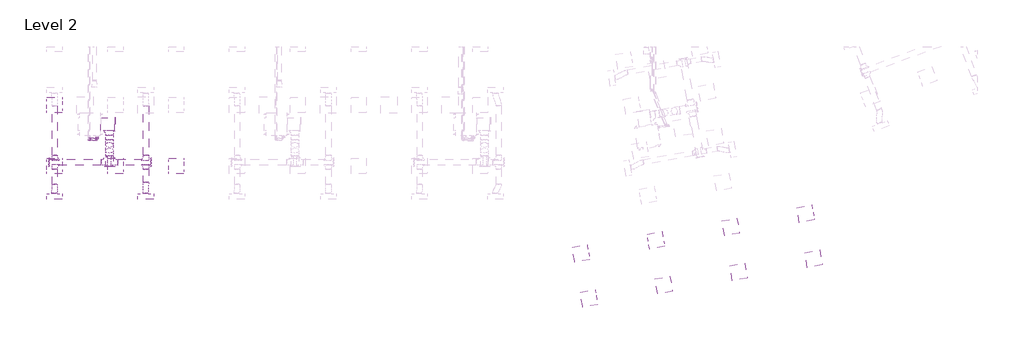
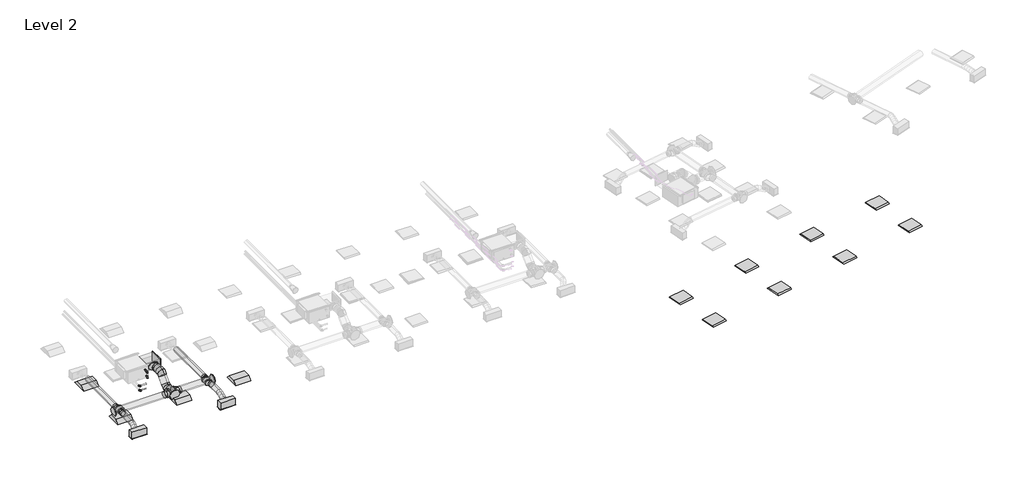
# One storey, part 1 of 26: 13 duct fittings, 12 duct segments, 12 light fixtures, 6 pipe fittings, 4 pipe segments, 2 air terminals.
"""IFC4 building model written with IfcOpenShell, lengths in millimetres."""

from ifc_helpers import new_model, si_unit, point, frame, frame_2d, origin, place, context, project, spatial, polyline, circle_curve, ellipse_curve, trimmed, segment, composite_curve, outline, extrude, transform, mapped, element, save
from ifc_brep_helpers import plane_surface, cylinder_surface, advanced_brep
from components import supply_diffuser_with_plenum_linear_slot_hosted_8c379eed, dw144_rectangular_blank_end_standard_8fde7d16, dw144_round_blank_end_standard_f82b0856, dw144_round_blank_end_standard_9aa061e7, dw144_round_segmented_bend_slip_joint_standard_8b80c5ae, dw144_round_shoe_branch_slip_joint1_standard_2_15a2edd8, dw144_round_shoe_branch_slip_joint1_standard_2_559552f4, dw144_round_shoe_branch_slip_joint1_standard_2_7ba9e4ed, dw144_round_shoe_branch_slip_joint1_standard_2_67b64720, light_fixture_1c7c1157, light_fixture_b730b5ca, plain_recessed_lighting_fixture_2x2_277_2107ce2d, elbow_threaded_gmi_standard_b4aa7741, socket_reducing_threaded_gmi_standard_0a4076b8

model = new_model("IFC4")

# Units and contexts
model_context = context("Model", 3, world=origin())
ifc_project = project(units=[si_unit("LENGTHUNIT", "METRE", prefix="MILLI")], contexts=[model_context])

# Site, building, storey
site = spatial("IfcSite", under=ifc_project)
building = spatial("IfcBuilding", under=site)
storey = spatial("IfcBuildingStorey", under=building, Name="Level 2", Elevation=7800.0)

# Air terminals
placement = place(None, origin())
supply_diffuser_with_plenum_linear_slot_hosted_shape = supply_diffuser_with_plenum_linear_slot_hosted_8c379eed(model_context)
element("IfcAirTerminal", 1, ObjectType="Supply Diffuser with Plenum - Linear Slot - Hosted : 24\" x 8\"-200 In Inlet  4-Slot", at=placement, inside=storey, context=model_context, shape_type="MappedRepresentation", body=[
    mapped(supply_diffuser_with_plenum_linear_slot_hosted_shape, transform((9162.2000027, 963.2000004, 10600.0), x_axis=(1.0, 0.0, 0.0), y_axis=(0.0, -1.0, 0.0), z_axis=(0.0, 0.0, -1.0))),
])
element("IfcAirTerminal", 2, ObjectType="Supply Diffuser with Plenum - Linear Slot - Hosted : 24\" x 8\"-200 In Inlet  4-Slot", at=placement, inside=storey, context=model_context, shape_type="MappedRepresentation", body=[
    mapped(supply_diffuser_with_plenum_linear_slot_hosted_shape, transform((12762.2000027, 963.2000004, 10600.0), x_axis=(1.0, 0.0, 0.0), y_axis=(0.0, -1.0, 0.0), z_axis=(0.0, 0.0, -1.0))),
])

# Duct fittings
dw144_rectangular_blank_end_standard_shape = dw144_rectangular_blank_end_standard_8fde7d16(model_context)
element("IfcDuctFitting", 3, ObjectType="DW144 Rectangular Blank End : Standard", at=placement, inside=storey, context=model_context, shape_type="MappedRepresentation", body=[
    mapped(dw144_rectangular_blank_end_standard_shape, transform((11546.2561025, 3806.0000004, 11276.3911538), x_axis=(1.0, 0.0, 0.0), y_axis=(0.0, 1.0, 0.0), z_axis=(0.0, 0.0, 1.0))),
])
dw144_round_blank_end_standard_shape = dw144_round_blank_end_standard_f82b0856(model_context)
element("IfcDuctFitting", 4, ObjectType="DW144 Round Blank End : Standard", at=placement, inside=storey, context=model_context, shape_type="MappedRepresentation", body=[
    mapped(dw144_round_blank_end_standard_shape, transform((11331.4561025, 2142.9916128, 10872.2088531), x_axis=(0.0, -1.0, 0.0), y_axis=(1.0, 0.0, 0.0), z_axis=(0.0, 0.0, 1.0))),
])
dw144_round_blank_end_standard_2_shape = dw144_round_blank_end_standard_9aa061e7(model_context)
element("IfcDuctFitting", 5, ObjectType="DW144 Round Blank End : Standard", at=placement, inside=storey, context=model_context, shape_type="MappedRepresentation", body=[
    mapped(dw144_round_blank_end_standard_2_shape, transform((12961.4561025, 2306.5018192, 10872.2088531), x_axis=(1.0, 0.0, 0.0), y_axis=(0.0, 1.0, 0.0), z_axis=(0.0, 0.0, 1.0))),
])
element("IfcDuctFitting", 6, ObjectType="DW144 Round Blank End : Standard", at=placement, inside=storey, context=model_context, shape_type="MappedRepresentation", body=[
    mapped(dw144_round_blank_end_standard_2_shape, transform((8961.4561025, 2306.5018192, 10872.2088531), x_axis=(-1.0, 0.0, 0.0), y_axis=(0.0, -1.0, 0.0), z_axis=(0.0, 0.0, 1.0))),
])
dw144_round_segmented_bend_slip_joint_standard_shape = dw144_round_segmented_bend_slip_joint_standard_8b80c5ae(model_context)
element("IfcDuctFitting", 7, ObjectType="DW144 Round Segmented Bend - Slip Joint : Standard", at=placement, inside=storey, context=model_context, shape_type="MappedRepresentation", body=[
    mapped(dw144_round_segmented_bend_slip_joint_standard_shape, transform((11331.4561025, 2678.6338536, 10872.2088531), x_axis=(0.0, -0.7071067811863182, -0.7071067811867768), y_axis=(0.0, 0.7071067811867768, -0.7071067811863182), z_axis=(1.0, 0.0, 0.0))),
])
element("IfcDuctFitting", 8, ObjectType="DW144 Round Segmented Bend - Slip Joint : Standard", at=placement, inside=storey, context=model_context, shape_type="MappedRepresentation", body=[
    mapped(dw144_round_segmented_bend_slip_joint_standard_shape, transform((11331.4561025, 3076.0000004, 11269.575), x_axis=(0.0, -1.0, 0.0), y_axis=(0.0, 0.0, 1.0), z_axis=(-1.0, 0.0, 0.0))),
])
dw144_round_shoe_branch_slip_joint1_standard_2_shape = dw144_round_shoe_branch_slip_joint1_standard_2_15a2edd8(model_context)
element("IfcDuctFitting", 9, ObjectType="DW144 Round Shoe Branch - Slip Joint1 : Standard 2", at=placement, inside=storey, context=model_context, shape_type="MappedRepresentation", body=[
    mapped(dw144_round_shoe_branch_slip_joint1_standard_2_shape, transform((9173.9000022, 2181.5018192, 10872.2088531), x_axis=(0.0, -1.0, 0.0), y_axis=(-1.0, 0.0, 0.0), z_axis=(0.0, 0.0, -1.0))),
])
element("IfcDuctFitting", 10, ObjectType="DW144 Round Shoe Branch - Slip Joint1 : Standard 2", at=placement, inside=storey, context=model_context, shape_type="MappedRepresentation", body=[
    mapped(dw144_round_shoe_branch_slip_joint1_standard_2_shape, transform((9173.9000022, 2431.5018192, 10872.2088531), x_axis=(0.0, 1.0, 0.0), y_axis=(-1.0, 0.0, 0.0), z_axis=(0.0, 0.0, 1.0))),
])
dw144_round_shoe_branch_slip_joint1_standard_2_2_shape = dw144_round_shoe_branch_slip_joint1_standard_2_559552f4(model_context)
element("IfcDuctFitting", 11, ObjectType="DW144 Round Shoe Branch - Slip Joint1 : Standard 2", at=placement, inside=storey, context=model_context, shape_type="MappedRepresentation", body=[
    mapped(dw144_round_shoe_branch_slip_joint1_standard_2_2_shape, transform((12773.9000022, 2181.5018192, 10872.2088531), x_axis=(0.0, -1.0, 0.0), y_axis=(-1.0, 0.0, 0.0), z_axis=(0.0, 0.0, -1.0))),
])
element("IfcDuctFitting", 12, ObjectType="DW144 Round Shoe Branch - Slip Joint1 : Standard 2", at=placement, inside=storey, context=model_context, shape_type="MappedRepresentation", body=[
    mapped(dw144_round_shoe_branch_slip_joint1_standard_2_2_shape, transform((12773.9000022, 2431.5018192, 10872.2088531), x_axis=(0.0, 1.0, 0.0), y_axis=(-1.0, 0.0, 0.0), z_axis=(0.0, 0.0, 1.0))),
])
dw144_round_shoe_branch_slip_joint1_standard_2_3_shape = dw144_round_shoe_branch_slip_joint1_standard_2_7ba9e4ed(model_context)
element("IfcDuctFitting", 13, ObjectType="DW144 Round Shoe Branch - Slip Joint1 : Standard 2", at=placement, inside=storey, context=model_context, shape_type="MappedRepresentation", body=[
    mapped(dw144_round_shoe_branch_slip_joint1_standard_2_3_shape, transform((11331.4561025, 3556.0000004, 11269.575), x_axis=(0.0, -1.0, 0.0), y_axis=(-1.0, 0.0, 0.0), z_axis=(0.0, 0.0, -1.0))),
])
dw144_round_shoe_branch_slip_joint1_standard_2_4_shape = dw144_round_shoe_branch_slip_joint1_standard_2_67b64720(model_context)
element("IfcDuctFitting", 14, ObjectType="DW144 Round Shoe Branch - Slip Joint1 : Standard 2", at=placement, inside=storey, context=model_context, shape_type="MappedRepresentation", body=[
    mapped(dw144_round_shoe_branch_slip_joint1_standard_2_4_shape, transform((11481.4561025, 2306.5018192, 10872.2088531), x_axis=(1.0, 0.0, 0.0), y_axis=(0.0, -1.0, 0.0), z_axis=(0.0, 0.0, -1.0))),
])
element("IfcDuctFitting", 15, ObjectType="DW144 Round Shoe Branch - Slip Joint1 : Standard 2", at=placement, inside=storey, context=model_context, shape_type="MappedRepresentation", body=[
    mapped(dw144_round_shoe_branch_slip_joint1_standard_2_4_shape, transform((11181.4561025, 2306.5018192, 10872.2088531), x_axis=(-1.0, 0.0, 0.0), y_axis=(0.0, -1.0, 0.0), z_axis=(0.0, 0.0, 1.0))),
])

# Duct segments
element("IfcDuctSegment", 16, ObjectType="DW144 Flanged Med Radius Bend / Shoe Branch", at=placement, inside=storey, context=model_context, shape_type="SweptSolid", body=[
    extrude(outline(polyline([(10993.0441119, 3556.0000004), (10993.0441119, 4056.0000004), (11546.2561025, 4056.0000004), (11546.2561025, 3556.0000004), (10993.0441119, 3556.0000004)])), frame((0.0, 0.0, 11101.3911538), z_axis=(0.0, 0.0, 1.0), x_axis=(1.0, 0.0, 0.0)), (0.0, 0.0, 1.0), 350.0),
])
element("IfcDuctSegment", 17, ObjectType="DW144 Segmented Bend / Shoe Branch", at=placement, inside=storey, context=model_context, shape_type="SweptSolid", body=[
    extrude(outline(composite_curve([segment(trimmed(circle_curve(frame_2d((11269.575, 11331.4561025)), 150.0), [point((11269.575, 11181.4561025))], [point((11119.575, 11331.4561025))], False, "CARTESIAN"), True, "CONTINUOUS"), segment(trimmed(circle_curve(frame_2d((11269.575, 11331.4561025)), 150.0), [point((11119.575, 11331.4561025))], [point((11269.575, 11481.4561025))], False, "CARTESIAN"), True, "CONTINUOUS"), segment(trimmed(circle_curve(frame_2d((11269.575, 11331.4561025)), 150.0), [point((11269.575, 11481.4561025))], [point((11419.575, 11331.4561025))], False, "CARTESIAN"), True, "CONTINUOUS"), segment(trimmed(circle_curve(frame_2d((11269.575, 11331.4561025)), 150.0), [point((11419.575, 11331.4561025))], [point((11269.575, 11181.4561025))], False, "CARTESIAN"), True, "CONTINUOUS")], self_intersect=False)), frame((0.0, 3200.2640691, 0.0), z_axis=(0.0, 1.0, 0.0), x_axis=(0.0, 0.0, 1.0)), (0.0, 0.0, 1.0), 180.7359313),
])
element("IfcDuctSegment", 18, ObjectType="DW144 Segmented Bend / Shoe Branch", at=placement, inside=storey, context=model_context, shape_type="SweptSolid", body=[
    extrude(outline(composite_curve([segment(trimmed(circle_curve(frame_2d((10872.2088531, 11331.4561025)), 150.0), [point((10872.2088531, 11181.4561025))], [point((10722.2088531, 11331.4561025))], False, "CARTESIAN"), True, "CONTINUOUS"), segment(trimmed(circle_curve(frame_2d((10872.2088531, 11331.4561025)), 150.0), [point((10722.2088531, 11331.4561025))], [point((10872.2088531, 11481.4561025))], False, "CARTESIAN"), True, "CONTINUOUS"), segment(trimmed(circle_curve(frame_2d((10872.2088531, 11331.4561025)), 150.0), [point((10872.2088531, 11481.4561025))], [point((11022.2088531, 11331.4561025))], False, "CARTESIAN"), True, "CONTINUOUS"), segment(trimmed(circle_curve(frame_2d((10872.2088531, 11331.4561025)), 150.0), [point((11022.2088531, 11331.4561025))], [point((10872.2088531, 11181.4561025))], False, "CARTESIAN"), True, "CONTINUOUS")], self_intersect=False)), frame((0.0, 2142.9916128, 0.0), z_axis=(0.0, 1.0, 0.0), x_axis=(0.0, 0.0, 1.0)), (0.0, 0.0, 1.0), 411.3781721),
])
element("IfcDuctSegment", 19, ObjectType="DW144 Segmented Bend / Shoe Branch", at=placement, inside=storey, context=model_context, shape_type="SweptSolid", body=[
    extrude(outline(composite_curve([segment(trimmed(circle_curve(frame_2d((0.0, -150.0)), 150.0), [point((-150.0, -150.0))], [point((0.0, 0.0))], False, "CARTESIAN"), True, "CONTINUOUS"), segment(trimmed(circle_curve(frame_2d((0.0, -150.0)), 150.0), [point((0.0, 0.0))], [point((150.0, -150.0))], False, "CARTESIAN"), True, "CONTINUOUS"), segment(trimmed(circle_curve(frame_2d((0.0, -150.0)), 150.0), [point((150.0, -150.0))], [point((0.0, -300.0))], False, "CARTESIAN"), True, "CONTINUOUS"), segment(trimmed(circle_curve(frame_2d((0.0, -150.0)), 150.0), [point((0.0, -300.0))], [point((-150.0, -150.0))], False, "CARTESIAN"), True, "CONTINUOUS")], self_intersect=False)), frame((11331.4561025, 2872.5678364, 10854.0108016), z_axis=(0.0, 0.7071067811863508, 0.7071067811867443), x_axis=(1.0, 0.0, 0.0)), (0.0, 0.0, 1.0), 313.4324567),
])
element("IfcDuctSegment", 20, ObjectType="DW144 Segmented Bend / Shoe Branch", at=placement, inside=storey, context=model_context, shape_type="SweptSolid", body=[
    extrude(outline(composite_curve([segment(trimmed(circle_curve(frame_2d((2306.5018192, 10872.2088531)), 125.0), [point((2181.5018192, 10872.2088531))], [point((2306.5018192, 10997.2088531))], False, "CARTESIAN"), True, "CONTINUOUS"), segment(trimmed(circle_curve(frame_2d((2306.5018192, 10872.2088531)), 125.0), [point((2306.5018192, 10997.2088531))], [point((2431.5018192, 10872.2088531))], False, "CARTESIAN"), True, "CONTINUOUS"), segment(trimmed(circle_curve(frame_2d((2306.5018192, 10872.2088531)), 125.0), [point((2431.5018192, 10872.2088531))], [point((2306.5018192, 10747.2088531))], False, "CARTESIAN"), True, "CONTINUOUS"), segment(trimmed(circle_curve(frame_2d((2306.5018192, 10872.2088531)), 125.0), [point((2306.5018192, 10747.2088531))], [point((2181.5018192, 10872.2088531))], False, "CARTESIAN"), True, "CONTINUOUS")], self_intersect=False)), frame((11656.4561025, 0.0, 0.0), z_axis=(1.0, 0.0, 0.0), x_axis=(0.0, 1.0, 0.0)), (0.0, 0.0, 1.0), 1305.0),
])
element("IfcDuctSegment", 21, ObjectType="DW144 Segmented Bend / Shoe Branch", at=placement, inside=storey, context=model_context, shape_type="SweptSolid", body=[
    extrude(outline(composite_curve([segment(trimmed(circle_curve(frame_2d((2306.5018192, 10872.2088531)), 125.0), [point((2431.5018192, 10872.2088531))], [point((2306.5018192, 10747.2088531))], False, "CARTESIAN"), True, "CONTINUOUS"), segment(trimmed(circle_curve(frame_2d((2306.5018192, 10872.2088531)), 125.0), [point((2306.5018192, 10747.2088531))], [point((2181.5018192, 10872.2088531))], False, "CARTESIAN"), True, "CONTINUOUS"), segment(trimmed(circle_curve(frame_2d((2306.5018192, 10872.2088531)), 125.0), [point((2181.5018192, 10872.2088531))], [point((2306.5018192, 10997.2088531))], False, "CARTESIAN"), True, "CONTINUOUS"), segment(trimmed(circle_curve(frame_2d((2306.5018192, 10872.2088531)), 125.0), [point((2306.5018192, 10997.2088531))], [point((2431.5018192, 10872.2088531))], False, "CARTESIAN"), True, "CONTINUOUS")], self_intersect=False)), frame((8961.4561025, 0.0, 0.0), z_axis=(1.0, 0.0, 0.0), x_axis=(0.0, 1.0, 0.0)), (0.0, 0.0, 1.0), 2045.0),
])
element("IfcDuctSegment", 22, ObjectType="DW144 Segmented Bend / Shoe Branch", at=placement, inside=storey, context=model_context, shape_type="SweptSolid", body=[
    extrude(outline(composite_curve([segment(trimmed(circle_curve(frame_2d((10872.2088531, 12773.9000022)), 100.0), [point((10872.2088531, 12673.9000022))], [point((10772.2088531, 12773.9000022))], False, "CARTESIAN"), True, "CONTINUOUS"), segment(trimmed(circle_curve(frame_2d((10872.2088531, 12773.9000022)), 100.0), [point((10772.2088531, 12773.9000022))], [point((10872.2088531, 12873.9000022))], False, "CARTESIAN"), True, "CONTINUOUS"), segment(trimmed(circle_curve(frame_2d((10872.2088531, 12773.9000022)), 100.0), [point((10872.2088531, 12873.9000022))], [point((10972.2088531, 12773.9000022))], False, "CARTESIAN"), True, "CONTINUOUS"), segment(trimmed(circle_curve(frame_2d((10872.2088531, 12773.9000022)), 100.0), [point((10972.2088531, 12773.9000022))], [point((10872.2088531, 12673.9000022))], False, "CARTESIAN"), True, "CONTINUOUS")], self_intersect=False)), frame((0.0, 1521.5018192, 0.0), z_axis=(0.0, 1.0, 0.0), x_axis=(0.0, 0.0, 1.0)), (0.0, 0.0, 1.0), 510.0),
])
element("IfcDuctSegment", 23, ObjectType="DW144 Segmented Bend / Shoe Branch", at=placement, inside=storey, context=model_context, shape_type="SweptSolid", body=[
    extrude(outline(composite_curve([segment(trimmed(circle_curve(frame_2d((10872.2088531, 12773.9000022)), 100.0), [point((10872.2088531, 12873.9000022))], [point((10972.2088531, 12773.9000022))], False, "CARTESIAN"), True, "CONTINUOUS"), segment(trimmed(circle_curve(frame_2d((10872.2088531, 12773.9000022)), 100.0), [point((10972.2088531, 12773.9000022))], [point((10872.2088531, 12673.9000022))], False, "CARTESIAN"), True, "CONTINUOUS"), segment(trimmed(circle_curve(frame_2d((10872.2088531, 12773.9000022)), 100.0), [point((10872.2088531, 12673.9000022))], [point((10772.2088531, 12773.9000022))], False, "CARTESIAN"), True, "CONTINUOUS"), segment(trimmed(circle_curve(frame_2d((10872.2088531, 12773.9000022)), 100.0), [point((10772.2088531, 12773.9000022))], [point((10872.2088531, 12873.9000022))], False, "CARTESIAN"), True, "CONTINUOUS")], self_intersect=False)), frame((0.0, 2581.5018192, 0.0), z_axis=(0.0, 1.0, 0.0), x_axis=(0.0, 0.0, 1.0)), (0.0, 0.0, 1.0), 1950.0),
])
element("IfcDuctSegment", 24, ObjectType="DW144 Segmented Bend / Shoe Branch", at=placement, inside=storey, context=model_context, shape_type="SweptSolid", body=[
    extrude(outline(composite_curve([segment(trimmed(circle_curve(frame_2d((10872.2088531, 9173.9000022)), 100.0), [point((10872.2088531, 9273.9000022))], [point((10972.2088531, 9173.9000022))], False, "CARTESIAN"), True, "CONTINUOUS"), segment(trimmed(circle_curve(frame_2d((10872.2088531, 9173.9000022)), 100.0), [point((10972.2088531, 9173.9000022))], [point((10872.2088531, 9073.9000022))], False, "CARTESIAN"), True, "CONTINUOUS"), segment(trimmed(circle_curve(frame_2d((10872.2088531, 9173.9000022)), 100.0), [point((10872.2088531, 9073.9000022))], [point((10772.2088531, 9173.9000022))], False, "CARTESIAN"), True, "CONTINUOUS"), segment(trimmed(circle_curve(frame_2d((10872.2088531, 9173.9000022)), 100.0), [point((10772.2088531, 9173.9000022))], [point((10872.2088531, 9273.9000022))], False, "CARTESIAN"), True, "CONTINUOUS")], self_intersect=False)), frame((0.0, 1441.5018192, 0.0), z_axis=(0.0, 1.0, 0.0), x_axis=(0.0, 0.0, 1.0)), (0.0, 0.0, 1.0), 590.0),
])
element("IfcDuctSegment", 25, ObjectType="DW144 Segmented Bend / Shoe Branch", at=placement, inside=storey, context=model_context, shape_type="SweptSolid", body=[
    extrude(outline(composite_curve([segment(trimmed(circle_curve(frame_2d((10872.2088531, 9173.9000022)), 100.0), [point((10872.2088531, 9273.9000022))], [point((10972.2088531, 9173.9000022))], False, "CARTESIAN"), True, "CONTINUOUS"), segment(trimmed(circle_curve(frame_2d((10872.2088531, 9173.9000022)), 100.0), [point((10972.2088531, 9173.9000022))], [point((10872.2088531, 9073.9000022))], False, "CARTESIAN"), True, "CONTINUOUS"), segment(trimmed(circle_curve(frame_2d((10872.2088531, 9173.9000022)), 100.0), [point((10872.2088531, 9073.9000022))], [point((10772.2088531, 9173.9000022))], False, "CARTESIAN"), True, "CONTINUOUS"), segment(trimmed(circle_curve(frame_2d((10872.2088531, 9173.9000022)), 100.0), [point((10772.2088531, 9173.9000022))], [point((10872.2088531, 9273.9000022))], False, "CARTESIAN"), True, "CONTINUOUS")], self_intersect=False)), frame((0.0, 2581.5018192, 0.0), z_axis=(0.0, 1.0, 0.0), x_axis=(0.0, 0.0, 1.0)), (0.0, 0.0, 1.0), 1950.0),
])
element("IfcDuctSegment", 26, ObjectType="Flex - Round", at=placement, inside=storey, context=model_context, shape_type="AdvancedBrep", body=[
    advanced_brep(
    [(9273.9000022, 1441.5018192, 10872.2088531), (9173.9000022, 1441.5018192, 10772.2088531), (9073.9000022, 1441.5018192, 10872.2088531), (9173.9000022, 1441.5018192, 10972.2088531), (9273.9000022, 1419.9886644, 10872.2088531), (9173.9000022, 1434.4041273, 10772.2088531), (9073.9000022, 1422.5932881, 10872.2088531), (9173.9000022, 1408.1778252, 10972.2088531), (9262.2000027, 1092.1000004, 10754.4), (9162.2000027, 1092.1000004, 10854.4), (9062.2000027, 1092.1000004, 10754.4), (9162.2000027, 1092.1000004, 10654.4), (9272.0154345, 1348.8904029, 10853.2328893), (9172.6402079, 1386.8764181, 10759.5238159), (9072.1283201, 1355.7538157, 10854.3695504), (9171.5035467, 1317.7678004, 10948.0786237), (9267.9552415, 1262.5544078, 10812.3502664), (9169.0041626, 1309.5595036, 10722.9119919), (9068.1447633, 1271.0474118, 10814.2585867), (9167.0958423, 1224.0423161, 10903.6968612), (9263.9716847, 1177.8480039, 10772.2393027), (9164.5964582, 1215.8340192, 10678.5302294), (9064.0845704, 1184.7114168, 10773.3759639), (9163.459797, 1146.7254015, 10867.0850372), (9262.2000027, 1111.0085316, 10754.4), (9162.2000027, 1125.4239944, 10654.4), (9062.2000027, 1113.6131552, 10754.4), (9162.2000027, 1099.1976924, 10854.4)],
    [
        (0, 1, circle_curve(frame((9173.9000022, 1441.5018192, 10872.2088531), z_axis=(0.0, 1.0, 0.0), x_axis=(1.0, 0.0, 0.0)), 100.0)),
        (1, 2, circle_curve(frame((9173.9000022, 1441.5018192, 10872.2088531), z_axis=(0.0, 1.0, 0.0), x_axis=(1.0, 0.0, 0.0)), 100.0)),
        (2, 3, circle_curve(frame((9173.9000022, 1441.5018192, 10872.2088531), z_axis=(0.0, 1.0, 0.0), x_axis=(1.0, 0.0, 0.0)), 100.0)),
        (3, 0, circle_curve(frame((9173.9000022, 1441.5018192, 10872.2088531), z_axis=(0.0, 1.0, 0.0), x_axis=(1.0, 0.0, 0.0)), 100.0)),
        (0, 4),
        (4, 5, ellipse_curve(frame((9173.9000022, 1421.2909763, 10872.2088531), z_axis=(0.01291149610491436, 0.9914289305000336, 0.13000757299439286), x_axis=(-0.09798018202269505, 0.1306471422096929, -0.9865754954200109)), 100.8645168, 100.0)),
        (5, 1),
        (5, 6, ellipse_curve(frame((9173.9000022, 1421.2909763, 10872.2088531), z_axis=(0.01291149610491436, 0.9914289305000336, 0.13000757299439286), x_axis=(-0.09798018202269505, 0.1306471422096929, -0.9865754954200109)), 100.8645168, 100.0)),
        (6, 2),
        (6, 7, ellipse_curve(frame((9173.9000022, 1421.2909763, 10872.2088531), z_axis=(0.01291149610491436, 0.9914289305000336, 0.13000757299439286), x_axis=(-0.09798018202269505, 0.1306471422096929, -0.9865754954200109)), 100.8645168, 100.0)),
        (7, 3),
        (7, 4, ellipse_curve(frame((9173.9000022, 1421.2909763, 10872.2088531), z_axis=(0.01291149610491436, 0.9914289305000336, 0.13000757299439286), x_axis=(-0.09798018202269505, 0.1306471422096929, -0.9865754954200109)), 100.8645168, 100.0)),
        (8, 9, circle_curve(frame((9162.2000027, 1092.1000004, 10754.4), z_axis=(0.0, -1.0, 0.0), x_axis=(1.0, 0.0, 0.0)), 100.0)),
        (9, 10, circle_curve(frame((9162.2000027, 1092.1000004, 10754.4), z_axis=(0.0, -1.0, 0.0), x_axis=(1.0, 0.0, 0.0)), 100.0)),
        (10, 11, circle_curve(frame((9162.2000027, 1092.1000004, 10754.4), z_axis=(0.0, -1.0, 0.0), x_axis=(1.0, 0.0, 0.0)), 100.0)),
        (11, 8, circle_curve(frame((9162.2000027, 1092.1000004, 10754.4), z_axis=(0.0, -1.0, 0.0), x_axis=(1.0, 0.0, 0.0)), 100.0)),
        (4, 12),
        (12, 13, ellipse_curve(frame((9172.0718773, 1352.3221093, 10853.8012198), z_axis=(0.03417490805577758, 0.9383065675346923, 0.34411169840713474), x_axis=(-0.09273024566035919, 0.34580454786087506, -0.9337131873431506)), 100.4159667, 100.0)),
        (13, 5),
        (13, 14, ellipse_curve(frame((9172.0718773, 1352.3221093, 10853.8012198), z_axis=(0.03417490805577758, 0.9383065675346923, 0.34411169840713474), x_axis=(-0.09273024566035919, 0.34580454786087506, -0.9337131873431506)), 100.4159667, 100.0)),
        (14, 6),
        (14, 15, ellipse_curve(frame((9172.0718773, 1352.3221093, 10853.8012198), z_axis=(0.03417490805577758, 0.9383065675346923, 0.34411169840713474), x_axis=(-0.09273024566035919, 0.34580454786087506, -0.9337131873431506)), 100.4159667, 100.0)),
        (15, 7),
        (15, 12, ellipse_curve(frame((9172.0718773, 1352.3221093, 10853.8012198), z_axis=(0.03417490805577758, 0.9383065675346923, 0.34411169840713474), x_axis=(-0.09273024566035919, 0.34580454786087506, -0.9337131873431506)), 100.4159667, 100.0)),
        (12, 16),
        (16, 17, circle_curve(frame((9168.0500024, 1266.8009098, 10813.3044266), z_axis=(0.04246501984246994, 0.9029767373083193, 0.42758593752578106), x_axis=(0.999052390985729, -0.042465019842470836, -0.009541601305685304)), 100.0)),
        (17, 13),
        (17, 18, circle_curve(frame((9168.0500024, 1266.8009098, 10813.3044266), z_axis=(0.04246501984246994, 0.9029767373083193, 0.42758593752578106), x_axis=(0.999052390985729, -0.042465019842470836, -0.009541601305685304)), 100.0)),
        (18, 14),
        (18, 19, circle_curve(frame((9168.0500024, 1266.8009098, 10813.3044266), z_axis=(0.04246501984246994, 0.9029767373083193, 0.42758593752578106), x_axis=(0.999052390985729, -0.042465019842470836, -0.009541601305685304)), 100.0)),
        (19, 15),
        (19, 16, circle_curve(frame((9168.0500024, 1266.8009098, 10813.3044266), z_axis=(0.04246501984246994, 0.9029767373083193, 0.42758593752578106), x_axis=(0.999052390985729, -0.042465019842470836, -0.009541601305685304)), 100.0)),
        (16, 20),
        (20, 21, ellipse_curve(frame((9164.0281276, 1181.2797104, 10772.8076333), z_axis=(0.03417490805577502, 0.9383065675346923, 0.3441116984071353), x_axis=(0.09273024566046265, -0.34580454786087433, 0.9337131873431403)), 100.4159667, 100.0)),
        (21, 17),
        (21, 22, ellipse_curve(frame((9164.0281276, 1181.2797104, 10772.8076333), z_axis=(0.03417490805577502, 0.9383065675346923, 0.3441116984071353), x_axis=(0.09273024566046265, -0.34580454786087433, 0.9337131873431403)), 100.4159667, 100.0)),
        (22, 18),
        (22, 23, ellipse_curve(frame((9164.0281276, 1181.2797104, 10772.8076333), z_axis=(0.03417490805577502, 0.9383065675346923, 0.3441116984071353), x_axis=(0.09273024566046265, -0.34580454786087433, 0.9337131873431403)), 100.4159667, 100.0)),
        (23, 19),
        (23, 20, ellipse_curve(frame((9164.0281276, 1181.2797104, 10772.8076333), z_axis=(0.03417490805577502, 0.9383065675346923, 0.3441116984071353), x_axis=(0.09273024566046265, -0.34580454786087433, 0.9337131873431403)), 100.4159667, 100.0)),
        (20, 24),
        (24, 25, ellipse_curve(frame((9162.2000027, 1112.3108434, 10754.4), z_axis=(0.012911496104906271, 0.9914289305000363, 0.13000757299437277), x_axis=(0.09798018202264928, -0.1306471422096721, 0.9865754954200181)), 100.8645168, 100.0)),
        (25, 21),
        (25, 26, ellipse_curve(frame((9162.2000027, 1112.3108434, 10754.4), z_axis=(0.012911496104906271, 0.9914289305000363, 0.13000757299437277), x_axis=(0.09798018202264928, -0.1306471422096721, 0.9865754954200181)), 100.8645168, 100.0)),
        (26, 22),
        (26, 27, ellipse_curve(frame((9162.2000027, 1112.3108434, 10754.4), z_axis=(0.012911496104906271, 0.9914289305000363, 0.13000757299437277), x_axis=(0.09798018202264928, -0.1306471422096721, 0.9865754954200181)), 100.8645168, 100.0)),
        (27, 23),
        (27, 24, ellipse_curve(frame((9162.2000027, 1112.3108434, 10754.4), z_axis=(0.012911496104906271, 0.9914289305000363, 0.13000757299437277), x_axis=(0.09798018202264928, -0.1306471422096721, 0.9865754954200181)), 100.8645168, 100.0)),
        (24, 8),
        (11, 25),
        (10, 26),
        (9, 27),
    ],
    [
        plane_surface(frame((9073.9000022, 1441.5018192, 10872.2088531), z_axis=(0.0, 1.0, 0.0), x_axis=(0.0, 0.0, -1.0))),
        cylinder_surface(frame((9173.9000022, 1441.5018192, 10872.2088531), z_axis=(0.0, 1.0, 0.0), x_axis=(1.0, 0.0, 0.0)), 100.0),
        plane_surface(frame((9062.2000027, 1092.1000004, 10754.4), z_axis=(0.0, -1.0, 0.0), x_axis=(0.0, 0.0, -1.0))),
        cylinder_surface(frame((9173.9000022, 1421.2909763, 10872.2088531), z_axis=(0.02560166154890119, 0.9658626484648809, 0.25778653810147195), x_axis=(0.9996665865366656, -0.02560166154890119, -0.0033571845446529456)), 100.0),
        cylinder_surface(frame((9172.0718773, 1352.3221093, 10853.8012198), z_axis=(0.04246501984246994, 0.9029767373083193, 0.42758593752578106), x_axis=(0.999052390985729, -0.042465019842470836, -0.009541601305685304)), 100.0),
        cylinder_surface(frame((9168.0500024, 1266.8009098, 10813.3044266), z_axis=(0.042465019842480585, 0.902976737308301, 0.42758593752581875), x_axis=(0.9990523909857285, -0.042465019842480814, -0.009541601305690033)), 100.0),
        cylinder_surface(frame((9164.0281276, 1181.2797104, 10772.8076333), z_axis=(0.025601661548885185, 0.9658626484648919, 0.25778653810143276), x_axis=(0.9996665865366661, -0.025601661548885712, -0.00335718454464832)), 100.0),
        cylinder_surface(frame((9162.2000027, 1112.3108434, 10754.4), z_axis=(0.0, 1.0, 0.0), x_axis=(1.0, 0.0, 0.0)), 100.0),
    ],
    [
        (0, [[1, 2, 3, 4]]),
        (1, [[-1, 5, 6, 7]]),
        (1, [[-2, -7, 8, 9]]),
        (1, [[-3, -9, 10, 11]]),
        (1, [[-4, -11, 12, -5]]),
        (2, [[13, 14, 15, 16]]),
        (3, [[-6, 17, 18, 19]]),
        (3, [[-8, -19, 20, 21]]),
        (3, [[-10, -21, 22, 23]]),
        (3, [[-12, -23, 24, -17]]),
        (4, [[-18, 25, 26, 27]]),
        (4, [[-20, -27, 28, 29]]),
        (4, [[-22, -29, 30, 31]]),
        (4, [[-24, -31, 32, -25]]),
        (5, [[-26, 33, 34, 35]]),
        (5, [[-28, -35, 36, 37]]),
        (5, [[-30, -37, 38, 39]]),
        (5, [[-32, -39, 40, -33]]),
        (6, [[-34, 41, 42, 43]]),
        (6, [[-36, -43, 44, 45]]),
        (6, [[-38, -45, 46, 47]]),
        (6, [[-40, -47, 48, -41]]),
        (7, [[-42, 49, -16, 50]]),
        (7, [[-44, -50, -15, 51]]),
        (7, [[-46, -51, -14, 52]]),
        (7, [[-48, -52, -13, -49]]),
    ],
),
])
element("IfcDuctSegment", 27, ObjectType="Flex - Round", at=placement, inside=storey, context=model_context, shape_type="AdvancedBrep", body=[
    advanced_brep(
    [(12873.9000022, 1521.5018192, 10872.2088531), (12773.9000022, 1521.5018192, 10772.2088531), (12673.9000022, 1521.5018192, 10872.2088531), (12773.9000022, 1521.5018192, 10972.2088531), (12873.9000022, 1503.8483968, 10872.2088531), (12773.9000022, 1514.716186, 10772.2088531), (12673.9000022, 1505.8120174, 10872.2088531), (12773.9000022, 1494.9442282, 10972.2088531), (12862.2000027, 1092.1000004, 10754.4), (12762.2000027, 1092.1000004, 10854.4), (12662.2000027, 1092.1000004, 10754.4), (12762.2000027, 1092.1000004, 10654.4), (12872.0365094, 1409.8841765, 10853.4450953), (12772.4280018, 1440.492465, 10757.3870846), (12672.1072452, 1415.4145623, 10854.1573443), (12771.7157528, 1384.8062738, 10950.2153551), (12867.9849454, 1303.2543522, 10812.6493581), (12768.7050709, 1342.5116705, 10719.9003985), (12668.1150595, 1310.3474674, 10813.9594951), (12767.3949339, 1271.0901491, 10906.7084546), (12863.9927597, 1198.1872573, 10772.4515088), (12764.3842521, 1228.7955458, 10676.3934981), (12664.0634955, 1203.7176431, 10773.1637578), (12763.6720031, 1173.1093547, 10869.2217685), (12862.2000027, 1107.7898022, 10754.4), (12762.2000027, 1118.6575914, 10654.4), (12662.2000027, 1109.7534229, 10754.4), (12762.2000027, 1098.8856336, 10854.4)],
    [
        (0, 1, circle_curve(frame((12773.9000022, 1521.5018192, 10872.2088531), z_axis=(0.0, 1.0, 0.0), x_axis=(1.0, 0.0, 0.0)), 100.0)),
        (1, 2, circle_curve(frame((12773.9000022, 1521.5018192, 10872.2088531), z_axis=(0.0, 1.0, 0.0), x_axis=(1.0, 0.0, 0.0)), 100.0)),
        (2, 3, circle_curve(frame((12773.9000022, 1521.5018192, 10872.2088531), z_axis=(0.0, 1.0, 0.0), x_axis=(1.0, 0.0, 0.0)), 100.0)),
        (3, 0, circle_curve(frame((12773.9000022, 1521.5018192, 10872.2088531), z_axis=(0.0, 1.0, 0.0), x_axis=(1.0, 0.0, 0.0)), 100.0)),
        (0, 4),
        (4, 5, ellipse_curve(frame((12773.9000022, 1504.8302071, 10872.2088531), z_axis=(0.009770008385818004, 0.9951014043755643, 0.09837551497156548), x_axis=(-0.09834312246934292, 0.09885947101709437, -0.9902299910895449)), 100.492271, 100.0)),
        (5, 1),
        (5, 6, ellipse_curve(frame((12773.9000022, 1504.8302071, 10872.2088531), z_axis=(0.009770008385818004, 0.9951014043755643, 0.09837551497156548), x_axis=(-0.09834312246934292, 0.09885947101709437, -0.9902299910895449)), 100.492271, 100.0)),
        (6, 2),
        (6, 7, ellipse_curve(frame((12773.9000022, 1504.8302071, 10872.2088531), z_axis=(0.009770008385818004, 0.9951014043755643, 0.09837551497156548), x_axis=(-0.09834312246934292, 0.09885947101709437, -0.9902299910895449)), 100.492271, 100.0)),
        (7, 3),
        (7, 4, ellipse_curve(frame((12773.9000022, 1504.8302071, 10872.2088531), z_axis=(0.009770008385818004, 0.9951014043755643, 0.09837551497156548), x_axis=(-0.09834312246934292, 0.09885947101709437, -0.9902299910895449)), 100.492271, 100.0)),
        (8, 9, circle_curve(frame((12762.2000027, 1092.1000004, 10754.4), z_axis=(0.0, -1.0, 0.0), x_axis=(1.0, 0.0, 0.0)), 100.0)),
        (9, 10, circle_curve(frame((12762.2000027, 1092.1000004, 10754.4), z_axis=(0.0, -1.0, 0.0), x_axis=(1.0, 0.0, 0.0)), 100.0)),
        (10, 11, circle_curve(frame((12762.2000027, 1092.1000004, 10754.4), z_axis=(0.0, -1.0, 0.0), x_axis=(1.0, 0.0, 0.0)), 100.0)),
        (11, 8, circle_curve(frame((12762.2000027, 1092.1000004, 10754.4), z_axis=(0.0, -1.0, 0.0), x_axis=(1.0, 0.0, 0.0)), 100.0)),
        (4, 12),
        (12, 13, ellipse_curve(frame((12772.0718773, 1412.6493694, 10853.8012198), z_axis=(0.027553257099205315, 0.960348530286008, 0.27743741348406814), x_axis=(-0.09490859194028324, 0.278802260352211, -0.955647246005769)), 100.358114, 100.0)),
        (13, 5),
        (13, 14, ellipse_curve(frame((12772.0718773, 1412.6493694, 10853.8012198), z_axis=(0.027553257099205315, 0.960348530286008, 0.27743741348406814), x_axis=(-0.09490859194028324, 0.278802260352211, -0.955647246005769)), 100.358114, 100.0)),
        (14, 6),
        (14, 15, ellipse_curve(frame((12772.0718773, 1412.6493694, 10853.8012198), z_axis=(0.027553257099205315, 0.960348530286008, 0.27743741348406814), x_axis=(-0.09490859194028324, 0.278802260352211, -0.955647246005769)), 100.358114, 100.0)),
        (15, 7),
        (15, 12, ellipse_curve(frame((12772.0718773, 1412.6493694, 10853.8012198), z_axis=(0.027553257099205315, 0.960348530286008, 0.27743741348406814), x_axis=(-0.09490859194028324, 0.278802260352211, -0.955647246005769)), 100.358114, 100.0)),
        (12, 16),
        (16, 17, circle_curve(frame((12768.0500024, 1306.8009098, 10813.3044266), z_axis=(0.035465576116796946, 0.9333897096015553, 0.3571076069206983), x_axis=(0.9993494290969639, -0.03546557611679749, -0.006550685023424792)), 100.0)),
        (17, 13),
        (17, 18, circle_curve(frame((12768.0500024, 1306.8009098, 10813.3044266), z_axis=(0.035465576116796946, 0.9333897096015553, 0.3571076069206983), x_axis=(0.9993494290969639, -0.03546557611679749, -0.006550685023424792)), 100.0)),
        (18, 14),
        (18, 19, circle_curve(frame((12768.0500024, 1306.8009098, 10813.3044266), z_axis=(0.035465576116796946, 0.9333897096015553, 0.3571076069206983), x_axis=(0.9993494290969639, -0.03546557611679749, -0.006550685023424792)), 100.0)),
        (19, 15),
        (19, 16, circle_curve(frame((12768.0500024, 1306.8009098, 10813.3044266), z_axis=(0.035465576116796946, 0.9333897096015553, 0.3571076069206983), x_axis=(0.9993494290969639, -0.03546557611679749, -0.006550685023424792)), 100.0)),
        (16, 20),
        (20, 21, ellipse_curve(frame((12764.0281276, 1200.9524502, 10772.8076333), z_axis=(0.027553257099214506, 0.9603485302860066, 0.27743741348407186), x_axis=(0.09490859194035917, -0.27880226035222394, 0.9556472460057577)), 100.358114, 100.0)),
        (21, 17),
        (21, 22, ellipse_curve(frame((12764.0281276, 1200.9524502, 10772.8076333), z_axis=(0.027553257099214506, 0.9603485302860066, 0.27743741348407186), x_axis=(0.09490859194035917, -0.27880226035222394, 0.9556472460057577)), 100.358114, 100.0)),
        (22, 18),
        (22, 23, ellipse_curve(frame((12764.0281276, 1200.9524502, 10772.8076333), z_axis=(0.027553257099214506, 0.9603485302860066, 0.27743741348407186), x_axis=(0.09490859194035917, -0.27880226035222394, 0.9556472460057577)), 100.358114, 100.0)),
        (23, 19),
        (23, 20, ellipse_curve(frame((12764.0281276, 1200.9524502, 10772.8076333), z_axis=(0.027553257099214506, 0.9603485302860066, 0.27743741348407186), x_axis=(0.09490859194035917, -0.27880226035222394, 0.9556472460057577)), 100.358114, 100.0)),
        (20, 24),
        (24, 25, ellipse_curve(frame((12762.2000027, 1108.7716125, 10754.4), z_axis=(0.009770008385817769, 0.9951014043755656, 0.09837551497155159), x_axis=(0.09834312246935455, -0.09885947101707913, 0.9902299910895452)), 100.492271, 100.0)),
        (25, 21),
        (25, 26, ellipse_curve(frame((12762.2000027, 1108.7716125, 10754.4), z_axis=(0.009770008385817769, 0.9951014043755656, 0.09837551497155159), x_axis=(0.09834312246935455, -0.09885947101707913, 0.9902299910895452)), 100.492271, 100.0)),
        (26, 22),
        (26, 27, ellipse_curve(frame((12762.2000027, 1108.7716125, 10754.4), z_axis=(0.009770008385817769, 0.9951014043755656, 0.09837551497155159), x_axis=(0.09834312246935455, -0.09885947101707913, 0.9902299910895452)), 100.492271, 100.0)),
        (27, 23),
        (27, 24, ellipse_curve(frame((12762.2000027, 1108.7716125, 10754.4), z_axis=(0.009770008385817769, 0.9951014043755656, 0.09837551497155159), x_axis=(0.09834312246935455, -0.09885947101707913, 0.9902299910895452)), 100.492271, 100.0)),
        (24, 8),
        (11, 25),
        (10, 26),
        (9, 27),
    ],
    [
        plane_surface(frame((12673.9000022, 1521.5018192, 10872.2088531), z_axis=(0.0, 1.0, 0.0), x_axis=(0.0, 0.0, -1.0))),
        cylinder_surface(frame((12773.9000022, 1521.5018192, 10872.2088531), z_axis=(0.0, 1.0, 0.0), x_axis=(1.0, 0.0, 0.0)), 100.0),
        plane_surface(frame((12662.2000027, 1092.1000004, 10754.4), z_axis=(0.0, -1.0, 0.0), x_axis=(0.0, 0.0, -1.0))),
        cylinder_surface(frame((12773.9000022, 1504.8302071, 10872.2088531), z_axis=(0.019444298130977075, 0.9804536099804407, 0.19578722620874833), x_axis=(0.9998090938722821, -0.019444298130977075, -0.0019222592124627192)), 100.0),
        cylinder_surface(frame((12772.0718773, 1412.6493694, 10853.8012198), z_axis=(0.035465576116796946, 0.9333897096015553, 0.3571076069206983), x_axis=(0.9993494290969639, -0.03546557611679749, -0.006550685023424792)), 100.0),
        cylinder_surface(frame((12768.0500024, 1306.8009098, 10813.3044266), z_axis=(0.03546557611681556, 0.9333897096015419, 0.35710760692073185), x_axis=(0.9993494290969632, -0.03546557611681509, -0.006550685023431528)), 100.0),
        cylinder_surface(frame((12764.0281276, 1200.9524502, 10772.8076333), z_axis=(0.019444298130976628, 0.9804536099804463, 0.19578722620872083), x_axis=(0.9998090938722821, -0.019444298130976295, -0.0019222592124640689)), 100.0),
        cylinder_surface(frame((12762.2000027, 1108.7716125, 10754.4), z_axis=(0.0, 1.0, 0.0), x_axis=(1.0, 0.0, 0.0)), 100.0),
    ],
    [
        (0, [[1, 2, 3, 4]]),
        (1, [[-1, 5, 6, 7]]),
        (1, [[-2, -7, 8, 9]]),
        (1, [[-3, -9, 10, 11]]),
        (1, [[-4, -11, 12, -5]]),
        (2, [[13, 14, 15, 16]]),
        (3, [[-6, 17, 18, 19]]),
        (3, [[-8, -19, 20, 21]]),
        (3, [[-10, -21, 22, 23]]),
        (3, [[-12, -23, 24, -17]]),
        (4, [[-18, 25, 26, 27]]),
        (4, [[-20, -27, 28, 29]]),
        (4, [[-22, -29, 30, 31]]),
        (4, [[-24, -31, 32, -25]]),
        (5, [[-26, 33, 34, 35]]),
        (5, [[-28, -35, 36, 37]]),
        (5, [[-30, -37, 38, 39]]),
        (5, [[-32, -39, 40, -33]]),
        (6, [[-34, 41, 42, 43]]),
        (6, [[-36, -43, 44, 45]]),
        (6, [[-38, -45, 46, 47]]),
        (6, [[-40, -47, 48, -41]]),
        (7, [[-42, 49, -16, 50]]),
        (7, [[-44, -50, -15, 51]]),
        (7, [[-46, -51, -14, 52]]),
        (7, [[-48, -52, -13, -49]]),
    ],
),
])

# Light fixtures
light_fixture_shape = light_fixture_1c7c1157(model_context)
element("IfcLightFixture", 28, ObjectType="ELEKTRA Plain Recessed Lighting Fixture : 24\" x 24\" - 230", at=placement, inside=storey, context=model_context, shape_type="MappedRepresentation", body=[
    mapped(light_fixture_shape, transform((29690.7658114, -1636.5707914, 10600.0), x_axis=(0.9848077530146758, 0.17364817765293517, 0.0), y_axis=(0.17364817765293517, -0.9848077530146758, 0.0), z_axis=(0.0, 0.0, -1.0))),
])
element("IfcLightFixture", 29, ObjectType="ELEKTRA Plain Recessed Lighting Fixture : 24\" x 24\" - 230", at=placement, inside=storey, context=model_context, shape_type="MappedRepresentation", body=[
    mapped(light_fixture_shape, transform((32645.1890704, -1115.6262584, 10600.0), x_axis=(0.9848077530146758, 0.17364817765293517, 0.0), y_axis=(0.17364817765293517, -0.9848077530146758, 0.0), z_axis=(0.0, 0.0, -1.0))),
])
element("IfcLightFixture", 30, ObjectType="ELEKTRA Plain Recessed Lighting Fixture : 24\" x 24\" - 230", at=placement, inside=storey, context=model_context, shape_type="MappedRepresentation", body=[
    mapped(light_fixture_shape, transform((35599.6123294, -594.6817255, 10600.0), x_axis=(0.9848077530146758, 0.17364817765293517, 0.0), y_axis=(0.17364817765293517, -0.9848077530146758, 0.0), z_axis=(0.0, 0.0, -1.0))),
])
element("IfcLightFixture", 31, ObjectType="ELEKTRA Plain Recessed Lighting Fixture : 24\" x 24\" - 230", at=placement, inside=storey, context=model_context, shape_type="MappedRepresentation", body=[
    mapped(light_fixture_shape, transform((38554.0355885, -73.7371925, 10600.0), x_axis=(0.9848077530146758, 0.17364817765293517, 0.0), y_axis=(0.17364817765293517, -0.9848077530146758, 0.0), z_axis=(0.0, 0.0, -1.0))),
])
element("IfcLightFixture", 32, ObjectType="ELEKTRA Plain Recessed Lighting Fixture : 24\" x 24\" - 230", at=placement, inside=storey, context=model_context, shape_type="MappedRepresentation", body=[
    mapped(light_fixture_shape, transform((30003.3325311, -3409.2247468, 10600.0), x_axis=(0.9848077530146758, 0.17364817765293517, 0.0), y_axis=(0.17364817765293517, -0.9848077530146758, 0.0), z_axis=(0.0, 0.0, -1.0))),
])
element("IfcLightFixture", 33, ObjectType="ELEKTRA Plain Recessed Lighting Fixture : 24\" x 24\" - 230", at=placement, inside=storey, context=model_context, shape_type="MappedRepresentation", body=[
    mapped(light_fixture_shape, transform((35912.1790492, -2367.3356809, 10600.0), x_axis=(0.9848077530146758, 0.17364817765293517, 0.0), y_axis=(0.17364817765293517, -0.9848077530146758, 0.0), z_axis=(0.0, 0.0, -1.0))),
])
element("IfcLightFixture", 34, ObjectType="ELEKTRA Plain Recessed Lighting Fixture : 24\" x 24\" - 230", at=placement, inside=storey, context=model_context, shape_type="MappedRepresentation", body=[
    mapped(light_fixture_shape, transform((38866.6023083, -1846.3911479, 10600.0), x_axis=(0.9848077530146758, 0.17364817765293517, 0.0), y_axis=(0.17364817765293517, -0.9848077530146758, 0.0), z_axis=(0.0, 0.0, -1.0))),
])
light_fixture_2_shape = light_fixture_b730b5ca(model_context)
element("IfcLightFixture", 35, ObjectType="ELEKTRA EM Recessed Lighting Fixture : 24\" x 24\" - 230", at=placement, inside=storey, context=model_context, shape_type="MappedRepresentation", body=[
    mapped(light_fixture_2_shape, transform((32957.7557902, -2888.2802138, 10600.0), x_axis=(0.9848077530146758, 0.17364817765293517, 0.0), y_axis=(0.17364817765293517, -0.9848077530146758, 0.0), z_axis=(0.0, 0.0, -1.0))),
])
plain_recessed_lighting_fixture_2x2_277_shape = plain_recessed_lighting_fixture_2x2_277_2107ce2d(model_context)
element("IfcLightFixture", 36, ObjectType="Plain Recessed Lighting Fixture : 2x2 - 277", at=placement, inside=storey, context=model_context, shape_type="MappedRepresentation", body=[
    mapped(plain_recessed_lighting_fixture_2x2_277_shape, transform((13662.2000027, 1863.2000004, 10600.0), x_axis=(1.0, 0.0, 0.0), y_axis=(0.0, -1.0, 0.0), z_axis=(0.0, 0.0, -1.0))),
])
element("IfcLightFixture", 37, ObjectType="Plain Recessed Lighting Fixture : 2x2 - 277", at=placement, inside=storey, context=model_context, shape_type="MappedRepresentation", body=[
    mapped(plain_recessed_lighting_fixture_2x2_277_shape, transform((11262.2000027, 1863.2000004, 10600.0), x_axis=(1.0, 0.0, 0.0), y_axis=(0.0, -1.0, 0.0), z_axis=(0.0, 0.0, -1.0))),
])
element("IfcLightFixture", 38, ObjectType="Plain Recessed Lighting Fixture : 2x2 - 277", at=placement, inside=storey, context=model_context, shape_type="MappedRepresentation", body=[
    mapped(plain_recessed_lighting_fixture_2x2_277_shape, transform((8862.2000027, 1863.2000004, 10600.0), x_axis=(1.0, 0.0, 0.0), y_axis=(0.0, -1.0, 0.0), z_axis=(0.0, 0.0, -1.0))),
])
element("IfcLightFixture", 39, ObjectType="Plain Recessed Lighting Fixture : 2x2 - 277", at=placement, inside=storey, context=model_context, shape_type="MappedRepresentation", body=[
    mapped(plain_recessed_lighting_fixture_2x2_277_shape, transform((8862.2000027, 4263.2000004, 10600.0), x_axis=(1.0, 0.0, 0.0), y_axis=(0.0, -1.0, 0.0), z_axis=(0.0, 0.0, -1.0))),
])

# Pipe fittings
elbow_threaded_gmi_standard_shape = elbow_threaded_gmi_standard_b4aa7741(model_context)
element("IfcPipeFitting", 40, ObjectType="Elbow - Threaded - GMI : Standard", at=placement, inside=storey, context=model_context, shape_type="MappedRepresentation", body=[
    mapped(elbow_threaded_gmi_standard_shape, transform((10815.2441119, 3177.232951, 11403.3911538), x_axis=(0.0, -1.0, 0.0), y_axis=(0.0, 0.0, -1.0), z_axis=(1.0, 0.0, 0.0))),
])
element("IfcPipeFitting", 41, ObjectType="Elbow - Threaded - GMI : Standard", at=placement, inside=storey, context=model_context, shape_type="MappedRepresentation", body=[
    mapped(elbow_threaded_gmi_standard_shape, transform((10866.0441119, 3246.7427522, 11123.9911538), x_axis=(0.0, -1.0, 0.0), y_axis=(0.0, 0.0, -1.0), z_axis=(1.0, 0.0, 0.0))),
])
element("IfcPipeFitting", 42, ObjectType="Elbow - Threaded - GMI : Standard", at=placement, inside=storey, context=model_context, shape_type="MappedRepresentation", body=[
    mapped(elbow_threaded_gmi_standard_shape, transform((10521.3774685, 3177.232951, 10693.9343179), x_axis=(0.0, -1.0, 0.0), y_axis=(1.0, 0.0, 0.0), z_axis=(0.0, 0.0, 1.0))),
])
element("IfcPipeFitting", 43, ObjectType="Elbow - Threaded - GMI : Standard", at=placement, inside=storey, context=model_context, shape_type="MappedRepresentation", body=[
    mapped(elbow_threaded_gmi_standard_shape, transform((10542.0529581, 3246.7427522, 10834.6193977), x_axis=(0.0, -1.0, 0.0), y_axis=(1.0, 0.0, 0.0), z_axis=(0.0, 0.0, 1.0))),
])
socket_reducing_threaded_gmi_standard_shape = socket_reducing_threaded_gmi_standard_0a4076b8(model_context)
element("IfcPipeFitting", 44, ObjectType="Socket Reducing - Threaded - GMI : Standard", at=placement, inside=storey, context=model_context, shape_type="MappedRepresentation", body=[
    mapped(socket_reducing_threaded_gmi_standard_shape, transform((10866.0441119, 3323.4000004, 11123.9911538), x_axis=(0.0, -1.0, 0.0), y_axis=(1.0, 0.0, 0.0), z_axis=(0.0, 0.0, 1.0))),
])
element("IfcPipeFitting", 45, ObjectType="Socket Reducing - Threaded - GMI : Standard", at=placement, inside=storey, context=model_context, shape_type="MappedRepresentation", body=[
    mapped(socket_reducing_threaded_gmi_standard_shape, transform((10815.2441119, 3323.4000004, 11403.3911538), x_axis=(0.0, -1.0, 0.0), y_axis=(1.0, 0.0, 0.0), z_axis=(0.0, 0.0, 1.0))),
])

# Pipe segments
element("IfcPipeSegment", 46, ObjectType="Carbon Steel - Threaded", at=placement, inside=storey, context=model_context, shape_type="SweptSolid", body=[
    extrude(outline(composite_curve([segment(trimmed(circle_curve(frame_2d((11123.9911538, 10866.0441119)), 21.45), [point((11123.9911538, 10887.4941119))], [point((11145.4411538, 10866.0441119))], False, "CARTESIAN"), True, "CONTINUOUS"), segment(trimmed(circle_curve(frame_2d((11123.9911538, 10866.0441119)), 21.45), [point((11145.4411538, 10866.0441119))], [point((11123.9911538, 10844.5941119))], False, "CARTESIAN"), True, "CONTINUOUS"), segment(trimmed(circle_curve(frame_2d((11123.9911538, 10866.0441119)), 21.45), [point((11123.9911538, 10844.5941119))], [point((11102.5411538, 10866.0441119))], False, "CARTESIAN"), True, "CONTINUOUS"), segment(trimmed(circle_curve(frame_2d((11123.9911538, 10866.0441119)), 21.45), [point((11102.5411538, 10866.0441119))], [point((11123.9911538, 10887.4941119))], False, "CARTESIAN"), True, "CONTINUOUS")], self_intersect=False)), frame((0.0, 3271.4000004, 0.0), z_axis=(0.0, 1.0, 0.0), x_axis=(0.0, 0.0, 1.0)), (0.0, 0.0, 1.0), 20.3427518),
])
element("IfcPipeSegment", 47, ObjectType="Carbon Steel - Threaded", at=placement, inside=storey, context=model_context, shape_type="SweptSolid", body=[
    extrude(outline(composite_curve([segment(trimmed(circle_curve(frame_2d((11403.3911538, 10815.2441119)), 21.45), [point((11403.3911538, 10793.7941119))], [point((11381.9411538, 10815.2441119))], False, "CARTESIAN"), True, "CONTINUOUS"), segment(trimmed(circle_curve(frame_2d((11403.3911538, 10815.2441119)), 21.45), [point((11381.9411538, 10815.2441119))], [point((11403.3911538, 10836.6941119))], False, "CARTESIAN"), True, "CONTINUOUS"), segment(trimmed(circle_curve(frame_2d((11403.3911538, 10815.2441119)), 21.45), [point((11403.3911538, 10836.6941119))], [point((11424.8411538, 10815.2441119))], False, "CARTESIAN"), True, "CONTINUOUS"), segment(trimmed(circle_curve(frame_2d((11403.3911538, 10815.2441119)), 21.45), [point((11424.8411538, 10815.2441119))], [point((11403.3911538, 10793.7941119))], False, "CARTESIAN"), True, "CONTINUOUS")], self_intersect=False)), frame((0.0, 3222.232951, 0.0), z_axis=(0.0, 1.0, 0.0), x_axis=(0.0, 0.0, 1.0)), (0.0, 0.0, 1.0), 49.1670495),
])
element("IfcPipeSegment", 48, ObjectType="Carbon Steel - Threaded", at=placement, inside=storey, context=model_context, shape_type="SweptSolid", body=[
    extrude(outline(composite_curve([segment(trimmed(circle_curve(frame_2d((3177.232951, 10693.9343179)), 21.45), [point((3198.682951, 10693.9343179))], [point((3177.232951, 10672.4843179))], False, "CARTESIAN"), True, "CONTINUOUS"), segment(trimmed(circle_curve(frame_2d((3177.232951, 10693.9343179)), 21.45), [point((3177.232951, 10672.4843179))], [point((3155.782951, 10693.9343179))], False, "CARTESIAN"), True, "CONTINUOUS"), segment(trimmed(circle_curve(frame_2d((3177.232951, 10693.9343179)), 21.45), [point((3155.782951, 10693.9343179))], [point((3177.232951, 10715.3843179))], False, "CARTESIAN"), True, "CONTINUOUS"), segment(trimmed(circle_curve(frame_2d((3177.232951, 10693.9343179)), 21.45), [point((3177.232951, 10715.3843179))], [point((3198.682951, 10693.9343179))], False, "CARTESIAN"), True, "CONTINUOUS")], self_intersect=False)), frame((10566.3774685, 0.0, 0.0), z_axis=(1.0, 0.0, 0.0), x_axis=(0.0, 1.0, 0.0)), (0.0, 0.0, 1.0), 203.8666433),
])
element("IfcPipeSegment", 49, ObjectType="Carbon Steel - Threaded", at=placement, inside=storey, context=model_context, shape_type="SweptSolid", body=[
    extrude(outline(composite_curve([segment(trimmed(circle_curve(frame_2d((3246.7427522, 10834.6193977)), 21.45), [point((3268.1927522, 10834.6193977))], [point((3246.7427522, 10813.1693977))], False, "CARTESIAN"), True, "CONTINUOUS"), segment(trimmed(circle_curve(frame_2d((3246.7427522, 10834.6193977)), 21.45), [point((3246.7427522, 10813.1693977))], [point((3225.2927522, 10834.6193977))], False, "CARTESIAN"), True, "CONTINUOUS"), segment(trimmed(circle_curve(frame_2d((3246.7427522, 10834.6193977)), 21.45), [point((3225.2927522, 10834.6193977))], [point((3246.7427522, 10856.0693977))], False, "CARTESIAN"), True, "CONTINUOUS"), segment(trimmed(circle_curve(frame_2d((3246.7427522, 10834.6193977)), 21.45), [point((3246.7427522, 10856.0693977))], [point((3268.1927522, 10834.6193977))], False, "CARTESIAN"), True, "CONTINUOUS")], self_intersect=False)), frame((10587.0529581, 0.0, 0.0), z_axis=(1.0, 0.0, 0.0), x_axis=(0.0, 1.0, 0.0)), (0.0, 0.0, 1.0), 233.9911538),
])

save(model, "model.ifc")
